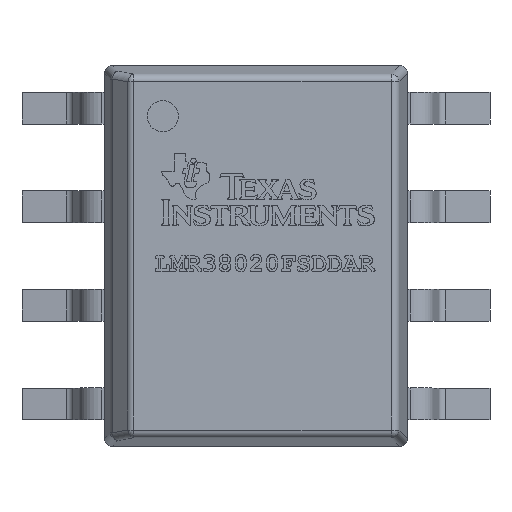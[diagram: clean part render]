
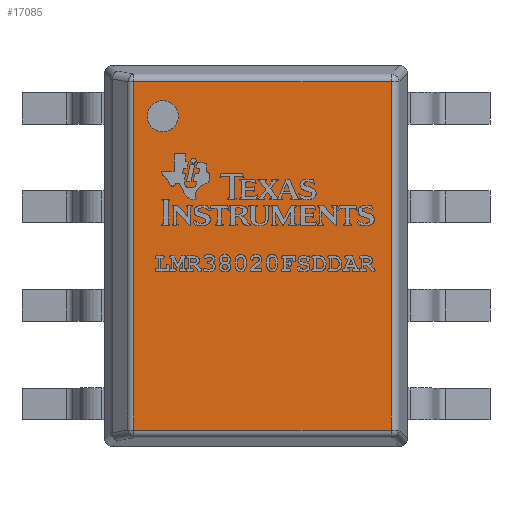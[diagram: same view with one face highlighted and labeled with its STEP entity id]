
A CAD part, top view. The second image highlights one B-rep face of the part: STEP entity #17085.
In plain terms, the highlighted planar face has unit normal (0, 0, 1) as drawn and (0, 1, 0) by its records, which use the part's own axes.
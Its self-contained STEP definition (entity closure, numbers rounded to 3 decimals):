
#1625=FACE_BOUND('',#3174,.T.);
#1704=PLANE('',#18163);
#2204=FACE_OUTER_BOUND('',#3173,.T.);
#3173=EDGE_LOOP('',(#11838,#11839,#11840,#11841));
#3174=EDGE_LOOP('',(#11842));
#4177=LINE('',#21458,#5734);
#4178=LINE('',#21462,#5735);
#4179=LINE('',#21464,#5736);
#4180=LINE('',#21465,#5737);
#5734=VECTOR('',#18820,4.485);
#5735=VECTOR('',#18825,3.321);
#5736=VECTOR('',#18826,4.485);
#5737=VECTOR('',#18827,3.321);
#7254=CIRCLE('',#18096,0.2);
#7302=VERTEX_POINT('',#21304);
#7350=VERTEX_POINT('',#21453);
#7351=VERTEX_POINT('',#21457);
#7352=VERTEX_POINT('',#21461);
#7353=VERTEX_POINT('',#21463);
#9059=EDGE_CURVE('',#7302,#7302,#7254,.T.);
#9134=EDGE_CURVE('',#7350,#7351,#4177,.T.);
#9136=EDGE_CURVE('',#7351,#7352,#4178,.T.);
#9137=EDGE_CURVE('',#7352,#7353,#4179,.T.);
#9138=EDGE_CURVE('',#7353,#7350,#4180,.T.);
#11838=ORIENTED_EDGE('',*,*,#9136,.T.);
#11839=ORIENTED_EDGE('',*,*,#9137,.T.);
#11840=ORIENTED_EDGE('',*,*,#9138,.T.);
#11841=ORIENTED_EDGE('',*,*,#9134,.T.);
#11842=ORIENTED_EDGE('',*,*,#9059,.T.);
#17085=ADVANCED_FACE('',(#2204,#1625),#1704,.T.);
#18096=AXIS2_PLACEMENT_3D('',#21306,#18651,#18652);
#18163=AXIS2_PLACEMENT_3D('',#21460,#18823,#18824);
#18651=DIRECTION('center_axis',(0.,-1.,0.));
#18652=DIRECTION('ref_axis',(0.,0.,-1.));
#18820=DIRECTION('',(1.,0.,0.));
#18823=DIRECTION('center_axis',(0.,1.,0.));
#18824=DIRECTION('ref_axis',(1.,0.,0.));
#18825=DIRECTION('',(0.,0.,-1.));
#18826=DIRECTION('',(-1.,0.,0.));
#18827=DIRECTION('',(0.,0.,1.));
#21304=CARTESIAN_POINT('',(1.8,0.7,-1.));
#21306=CARTESIAN_POINT('Origin',(1.8,0.7,-1.2));
#21453=CARTESIAN_POINT('',(-2.243,0.7,1.743));
#21457=CARTESIAN_POINT('',(2.243,0.7,1.743));
#21458=CARTESIAN_POINT('',(-2.243,0.7,1.743));
#21460=CARTESIAN_POINT('Origin',(0.,0.7,0.));
#21461=CARTESIAN_POINT('',(2.243,0.7,-1.579));
#21462=CARTESIAN_POINT('',(2.243,0.7,1.743));
#21463=CARTESIAN_POINT('',(-2.243,0.7,-1.579));
#21464=CARTESIAN_POINT('',(2.243,0.7,-1.579));
#21465=CARTESIAN_POINT('',(-2.243,0.7,-1.579));
